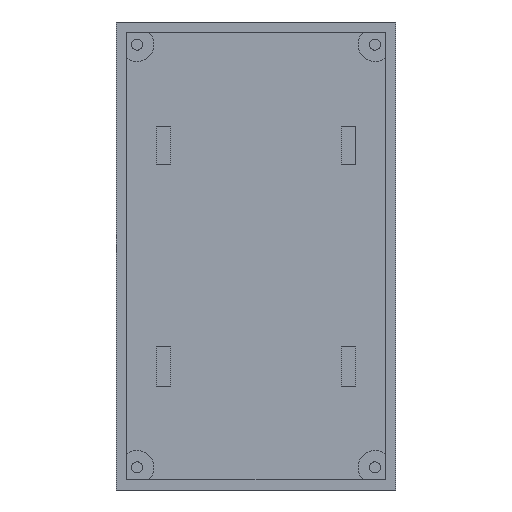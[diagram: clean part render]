
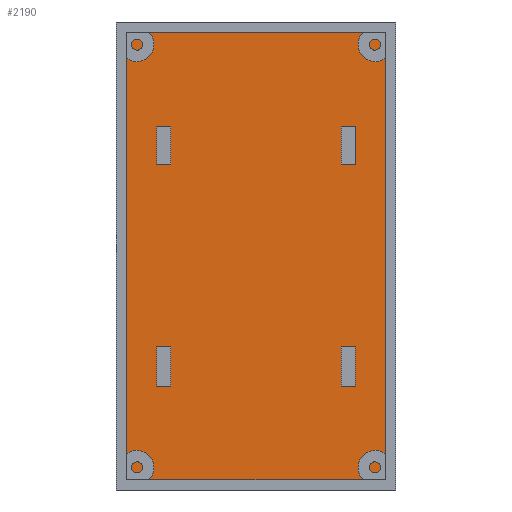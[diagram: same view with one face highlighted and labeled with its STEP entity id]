
A CAD part, front view. The second image highlights one B-rep face of the part: STEP entity #2190.
In plain terms, the highlighted planar face has unit normal (0, -1, 0).
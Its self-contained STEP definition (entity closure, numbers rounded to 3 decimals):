
#267 = PLANE('',#268);
#268 = AXIS2_PLACEMENT_3D('',#269,#270,#271);
#269 = CARTESIAN_POINT('',(-16.4,-5.4,34.4));
#270 = DIRECTION('',(0.,0.,1.));
#271 = DIRECTION('',(1.,0.,0.));
#293 = PLANE('',#294);
#294 = AXIS2_PLACEMENT_3D('',#295,#296,#297);
#295 = CARTESIAN_POINT('',(-16.4,-5.4,-34.4));
#296 = DIRECTION('',(1.,0.,0.));
#297 = DIRECTION('',(0.,0.,1.));
#319 = PLANE('',#320);
#320 = AXIS2_PLACEMENT_3D('',#321,#322,#323);
#321 = CARTESIAN_POINT('',(-16.4,-5.4,-34.4));
#322 = DIRECTION('',(0.,0.,1.));
#323 = DIRECTION('',(1.,0.,0.));
#343 = PLANE('',#344);
#344 = AXIS2_PLACEMENT_3D('',#345,#346,#347);
#345 = CARTESIAN_POINT('',(23.4,-5.4,-34.4));
#346 = DIRECTION('',(1.,0.,0.));
#347 = DIRECTION('',(0.,0.,1.));
#827 = VERTEX_POINT('',#828);
#828 = CARTESIAN_POINT('',(23.4,8.4,34.4));
#849 = EDGE_CURVE('',#850,#827,#852,.T.);
#850 = VERTEX_POINT('',#851);
#851 = CARTESIAN_POINT('',(-16.4,8.4,34.4));
#852 = SURFACE_CURVE('',#853,(#857,#864),.PCURVE_S1.);
#853 = LINE('',#854,#855);
#854 = CARTESIAN_POINT('',(-16.4,8.4,34.4));
#855 = VECTOR('',#856,1.);
#856 = DIRECTION('',(1.,0.,0.));
#857 = PCURVE('',#267,#858);
#858 = DEFINITIONAL_REPRESENTATION('',(#859),#863);
#859 = LINE('',#860,#861);
#860 = CARTESIAN_POINT('',(0.,13.8));
#861 = VECTOR('',#862,1.);
#862 = DIRECTION('',(1.,0.));
#863 = ( GEOMETRIC_REPRESENTATION_CONTEXT(2) 
PARAMETRIC_REPRESENTATION_CONTEXT() REPRESENTATION_CONTEXT('2D SPACE',''
  ) );
#864 = PCURVE('',#865,#870);
#865 = PLANE('',#866);
#866 = AXIS2_PLACEMENT_3D('',#867,#868,#869);
#867 = CARTESIAN_POINT('',(-16.4,8.4,-34.4));
#868 = DIRECTION('',(0.,1.,0.));
#869 = DIRECTION('',(0.,0.,1.));
#870 = DEFINITIONAL_REPRESENTATION('',(#871),#875);
#871 = LINE('',#872,#873);
#872 = CARTESIAN_POINT('',(68.8,0.));
#873 = VECTOR('',#874,1.);
#874 = DIRECTION('',(0.,1.));
#875 = ( GEOMETRIC_REPRESENTATION_CONTEXT(2) 
PARAMETRIC_REPRESENTATION_CONTEXT() REPRESENTATION_CONTEXT('2D SPACE',''
  ) );
#1169 = VERTEX_POINT('',#1170);
#1170 = CARTESIAN_POINT('',(23.4,8.4,-34.4));
#1191 = EDGE_CURVE('',#1169,#827,#1192,.T.);
#1192 = SURFACE_CURVE('',#1193,(#1197,#1204),.PCURVE_S1.);
#1193 = LINE('',#1194,#1195);
#1194 = CARTESIAN_POINT('',(23.4,8.4,-34.4));
#1195 = VECTOR('',#1196,1.);
#1196 = DIRECTION('',(0.,0.,1.));
#1197 = PCURVE('',#343,#1198);
#1198 = DEFINITIONAL_REPRESENTATION('',(#1199),#1203);
#1199 = LINE('',#1200,#1201);
#1200 = CARTESIAN_POINT('',(0.,-13.8));
#1201 = VECTOR('',#1202,1.);
#1202 = DIRECTION('',(1.,0.));
#1203 = ( GEOMETRIC_REPRESENTATION_CONTEXT(2) 
PARAMETRIC_REPRESENTATION_CONTEXT() REPRESENTATION_CONTEXT('2D SPACE',''
  ) );
#1204 = PCURVE('',#865,#1205);
#1205 = DEFINITIONAL_REPRESENTATION('',(#1206),#1210);
#1206 = LINE('',#1207,#1208);
#1207 = CARTESIAN_POINT('',(0.,39.8));
#1208 = VECTOR('',#1209,1.);
#1209 = DIRECTION('',(1.,0.));
#1210 = ( GEOMETRIC_REPRESENTATION_CONTEXT(2) 
PARAMETRIC_REPRESENTATION_CONTEXT() REPRESENTATION_CONTEXT('2D SPACE',''
  ) );
#1450 = EDGE_CURVE('',#1451,#1169,#1453,.T.);
#1451 = VERTEX_POINT('',#1452);
#1452 = CARTESIAN_POINT('',(-16.4,8.4,-34.4));
#1453 = SURFACE_CURVE('',#1454,(#1458,#1465),.PCURVE_S1.);
#1454 = LINE('',#1455,#1456);
#1455 = CARTESIAN_POINT('',(-16.4,8.4,-34.4));
#1456 = VECTOR('',#1457,1.);
#1457 = DIRECTION('',(1.,0.,0.));
#1458 = PCURVE('',#319,#1459);
#1459 = DEFINITIONAL_REPRESENTATION('',(#1460),#1464);
#1460 = LINE('',#1461,#1462);
#1461 = CARTESIAN_POINT('',(0.,13.8));
#1462 = VECTOR('',#1463,1.);
#1463 = DIRECTION('',(1.,0.));
#1464 = ( GEOMETRIC_REPRESENTATION_CONTEXT(2) 
PARAMETRIC_REPRESENTATION_CONTEXT() REPRESENTATION_CONTEXT('2D SPACE',''
  ) );
#1465 = PCURVE('',#865,#1466);
#1466 = DEFINITIONAL_REPRESENTATION('',(#1467),#1471);
#1467 = LINE('',#1468,#1469);
#1468 = CARTESIAN_POINT('',(0.,0.));
#1469 = VECTOR('',#1470,1.);
#1470 = DIRECTION('',(0.,1.));
#1471 = ( GEOMETRIC_REPRESENTATION_CONTEXT(2) 
PARAMETRIC_REPRESENTATION_CONTEXT() REPRESENTATION_CONTEXT('2D SPACE',''
  ) );
#1640 = EDGE_CURVE('',#1451,#850,#1641,.T.);
#1641 = SURFACE_CURVE('',#1642,(#1646,#1653),.PCURVE_S1.);
#1642 = LINE('',#1643,#1644);
#1643 = CARTESIAN_POINT('',(-16.4,8.4,-34.4));
#1644 = VECTOR('',#1645,1.);
#1645 = DIRECTION('',(0.,0.,1.));
#1646 = PCURVE('',#293,#1647);
#1647 = DEFINITIONAL_REPRESENTATION('',(#1648),#1652);
#1648 = LINE('',#1649,#1650);
#1649 = CARTESIAN_POINT('',(0.,-13.8));
#1650 = VECTOR('',#1651,1.);
#1651 = DIRECTION('',(1.,0.));
#1652 = ( GEOMETRIC_REPRESENTATION_CONTEXT(2) 
PARAMETRIC_REPRESENTATION_CONTEXT() REPRESENTATION_CONTEXT('2D SPACE',''
  ) );
#1653 = PCURVE('',#865,#1654);
#1654 = DEFINITIONAL_REPRESENTATION('',(#1655),#1659);
#1655 = LINE('',#1656,#1657);
#1656 = CARTESIAN_POINT('',(0.,0.));
#1657 = VECTOR('',#1658,1.);
#1658 = DIRECTION('',(1.,0.));
#1659 = ( GEOMETRIC_REPRESENTATION_CONTEXT(2) 
PARAMETRIC_REPRESENTATION_CONTEXT() REPRESENTATION_CONTEXT('2D SPACE',''
  ) );
#2190 = ADVANCED_FACE('',(#2191),#865,.F.);
#2191 = FACE_BOUND('',#2192,.F.);
#2192 = EDGE_LOOP('',(#2193,#2194,#2195,#2196));
#2193 = ORIENTED_EDGE('',*,*,#1450,.F.);
#2194 = ORIENTED_EDGE('',*,*,#1640,.T.);
#2195 = ORIENTED_EDGE('',*,*,#849,.T.);
#2196 = ORIENTED_EDGE('',*,*,#1191,.F.);
